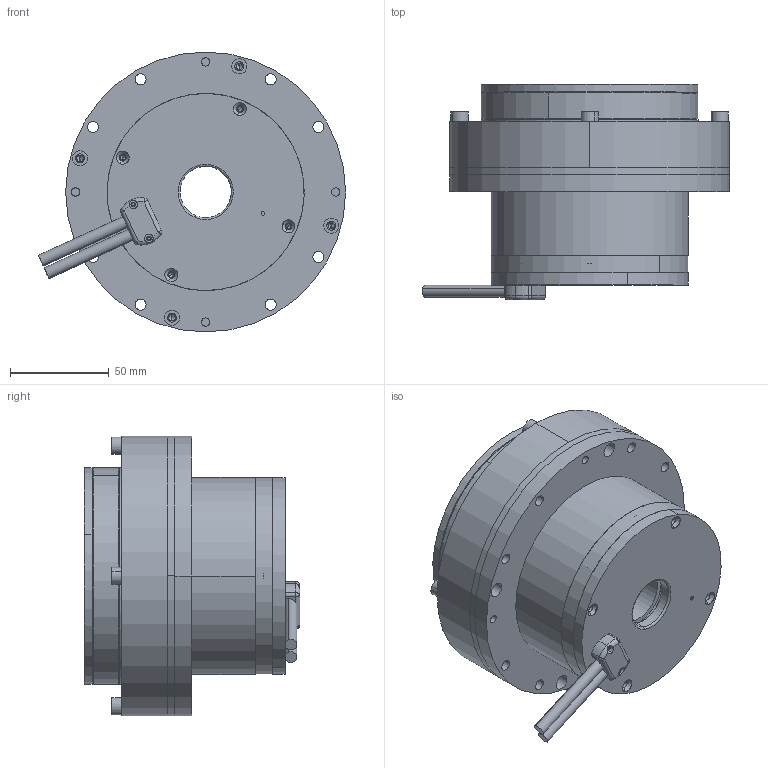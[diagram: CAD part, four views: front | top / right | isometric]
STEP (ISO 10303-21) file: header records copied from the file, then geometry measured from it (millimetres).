
FILE_DESCRIPTION (( 'STEP AP203' ), '1' );
FILE_NAME ('MT-RH32-N-V1.STEP', '2024-08-03T09:58:01', ( '' ), ( '' ), 'SwSTEP 2.0', 'SolidWorks 2020', '' );
FILE_SCHEMA (( 'CONFIG_CONTROL_DESIGN' ));
Length unit declared in the file: millimetre
Products named in the file (18): 32疏楷汜ん蟀諉粣-V1; RH-25-1010-V1-V1_Default<偌樓馱>; MT-RH32-1003-V1; 内六角圆柱头螺丝 M5_M5x14  12.9级黑; MT-RH32-1006-V1_Default<偌樓馱>; MT-RH32-1001-V1; MT-RH32-1004N-V1; 幗紩-V1; 盄擢_Default<偌樓馱>; NS-32-I-V1; MT-RH32-N-V1; N32_4-V1; MT-RH32-1002-V1; N32_8-V1; N32_6-V1; N32_5-V1; N32_7-V1; M2x5+3-V1
Assembly tree (51 placements, depth 3):
  MT-RH32-N-V1
    NS-32-I-V1
      N32_8-V1
      N32_4-V1
      N32_5-V1
      N32_6-V1
      N32_7-V1
      幗紩-V1  x31
    32疏楷汜ん蟀諉粣-V1
    MT-RH32-1001-V1
    MT-RH32-1002-V1
    MT-RH32-1003-V1
    MT-RH32-1004N-V1
    M2x5+3-V1
    MT-RH32-1006-V1_Default<偌樓馱>
    RH-25-1010-V1-V1_Default<偌樓馱>
    内六角圆柱头螺丝 M5_M5x14  12.9级黑  x4
    盄擢_Default<偌樓馱>  x2
Bounding box: 155.84 x 109.4 x 142 mm (x, y, z)
Volume: 692202.7 mm3; surface area: 263794.3 mm2
Topology: 50 solids, 50 shells, 895 faces, 2350 edges, 1508 vertices
Faces by surface type: cylinder 555, plane 173, cone 70, sphere 66, torus 31
Entity records: 27745 total; most frequent: DIRECTION 4843, CARTESIAN_POINT 4218, ORIENTED_EDGE 3950, AXIS2_PLACEMENT_3D 2042, EDGE_CURVE 1975, VERTEX_POINT 1285, CIRCLE 1204, EDGE_LOOP 1126
